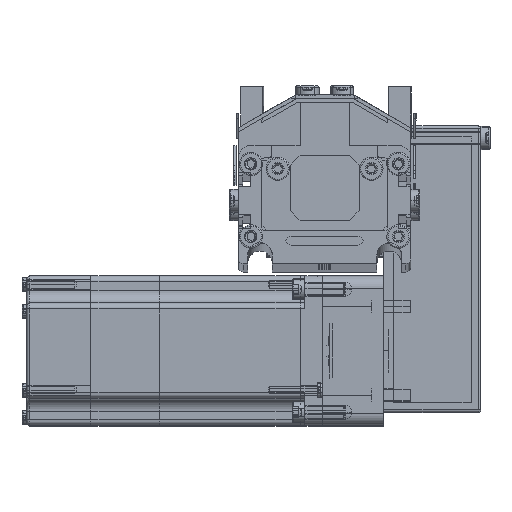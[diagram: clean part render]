
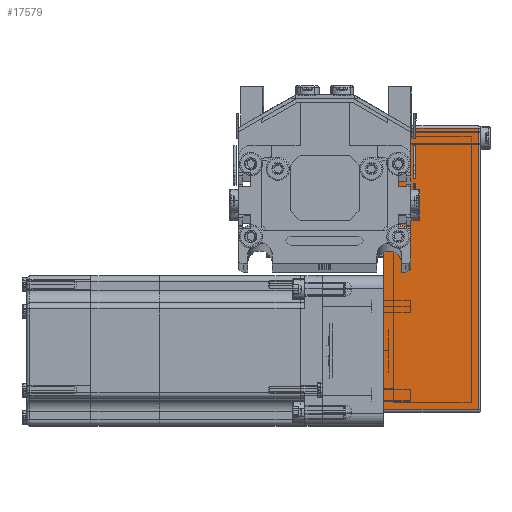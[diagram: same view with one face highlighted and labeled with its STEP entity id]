
A CAD part, top view. The second image highlights one B-rep face of the part: STEP entity #17579.
In plain terms, the highlighted planar face has unit normal (0, 0, 1) as drawn and (0, -1, 0) by its records, which use the part's own axes.
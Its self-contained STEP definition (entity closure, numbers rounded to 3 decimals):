
#16433 = ORIENTED_EDGE ( 'NONE', *, *, #17827, .T. ) ;
#16634 = EDGE_CURVE ( 'NONE', #17951, #17581, #85218, .T. ) ;
#16641 = ORIENTED_EDGE ( 'NONE', *, *, #17537, .T. ) ;
#17172 = EDGE_CURVE ( 'NONE', #17581, #17549, #85332, .T. ) ;
#17374 = EDGE_LOOP ( 'NONE', ( #17547, #16641, #16433, #17663 ) ) ;
#17537 = EDGE_CURVE ( 'NONE', #17549, #17640, #85474, .T. ) ;
#17547 = ORIENTED_EDGE ( 'NONE', *, *, #17172, .T. ) ;
#17549 = VERTEX_POINT ( 'NONE', #85469 ) ;
#17579 = ADVANCED_FACE ( 'NONE', ( #85683 ), #85710, .F. ) ;
#17581 = VERTEX_POINT ( 'NONE', #85686 ) ;
#17640 = VERTEX_POINT ( 'NONE', #85697 ) ;
#17663 = ORIENTED_EDGE ( 'NONE', *, *, #16634, .T. ) ;
#17827 = EDGE_CURVE ( 'NONE', #17640, #17951, #85984, .T. ) ;
#17951 = VERTEX_POINT ( 'NONE', #86443 ) ;
#85209 = DIRECTION ( 'NONE',  ( 0., 0., 1. ) ) ;
#85210 = VECTOR ( 'NONE', #85209, 1000. ) ;
#85211 = CARTESIAN_POINT ( 'NONE',  ( 65.5, -25., 39.5 ) ) ;
#85218 = LINE ( 'NONE', #85211, #85210 ) ;
#85329 = DIRECTION ( 'NONE',  ( -1., 0., 0. ) ) ;
#85330 = VECTOR ( 'NONE', #85329, 1000. ) ;
#85331 = CARTESIAN_POINT ( 'NONE',  ( -50., -25., 38.5 ) ) ;
#85332 = LINE ( 'NONE', #85331, #85330 ) ;
#85460 = DIRECTION ( 'NONE',  ( 0., 0., -1. ) ) ;
#85461 = VECTOR ( 'NONE', #85460, 1000. ) ;
#85462 = CARTESIAN_POINT ( 'NONE',  ( -49., -25., 39.5 ) ) ;
#85469 = CARTESIAN_POINT ( 'NONE',  ( -49., -25., 38.5 ) ) ;
#85474 = LINE ( 'NONE', #85462, #85461 ) ;
#85669 = AXIS2_PLACEMENT_3D ( 'NONE', #85717, #85691, #85848 ) ;
#85683 = FACE_OUTER_BOUND ( 'NONE', #17374, .T. ) ;
#85686 = CARTESIAN_POINT ( 'NONE',  ( 65.5, -25., 38.5 ) ) ;
#85691 = DIRECTION ( 'NONE',  ( 0., 1., 0. ) ) ;
#85697 = CARTESIAN_POINT ( 'NONE',  ( -49., -25., 0. ) ) ;
#85710 = PLANE ( 'NONE',  #85669 ) ;
#85717 = CARTESIAN_POINT ( 'NONE',  ( -50., -25., 39.5 ) ) ;
#85848 = DIRECTION ( 'NONE',  ( 0., 0., 1. ) ) ;
#85982 = CARTESIAN_POINT ( 'NONE',  ( -50., -25., 0. ) ) ;
#85984 = LINE ( 'NONE', #85982, #86032 ) ;
#86031 = DIRECTION ( 'NONE',  ( 1., 0., 0. ) ) ;
#86032 = VECTOR ( 'NONE', #86031, 1000. ) ;
#86443 = CARTESIAN_POINT ( 'NONE',  ( 65.5, -25., 0. ) ) ;
